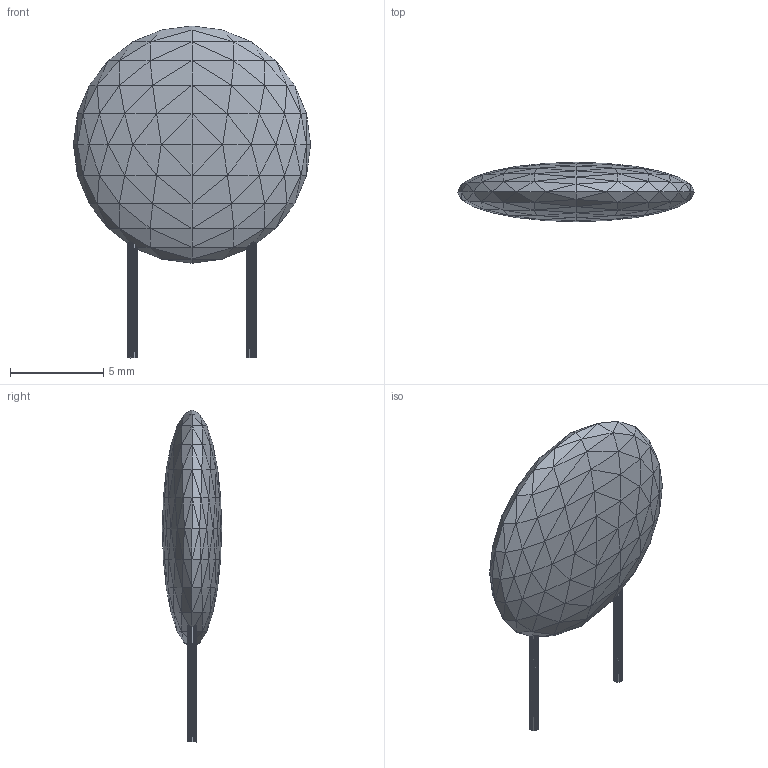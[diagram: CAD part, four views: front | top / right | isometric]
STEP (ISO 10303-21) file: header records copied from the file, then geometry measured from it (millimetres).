
FILE_DESCRIPTION(('HOOPS Exchange Step'),'2;1');
FILE_NAME('***.stp');
FILE_SCHEMA( ('AP242_MANAGED_MODEL_BASED_3D_ENGINEERING_MIM_LF {1 0 10303 442 1 1 4 }') );
Length unit declared in the file: inch
Products named in the file (4): CAPLGPF_2; CAPLGPF_3; CAPLGPF_4; CAPLGPF
Assembly tree (3 placements, depth 2):
  CAPLGPF
    CAPLGPF_2
    CAPLGPF_3
    CAPLGPF_4
Bounding box: 12.7 x 3.17 x 17.78 mm (x, y, z)
Volume: 259.9 mm3; surface area: 302 mm2
Topology: 3 solids, 3 shells, 480 faces, 720 edges, 246 vertices
Faces by surface type: plane 480
Entity records: 9540 total; most frequent: DIRECTION 1696, CARTESIAN_POINT 1454, ORIENTED_EDGE 1440, VECTOR 720, LINE 720, EDGE_CURVE 720, AXIS2_PLACEMENT_3D 488, PLANE 480
